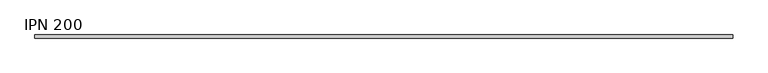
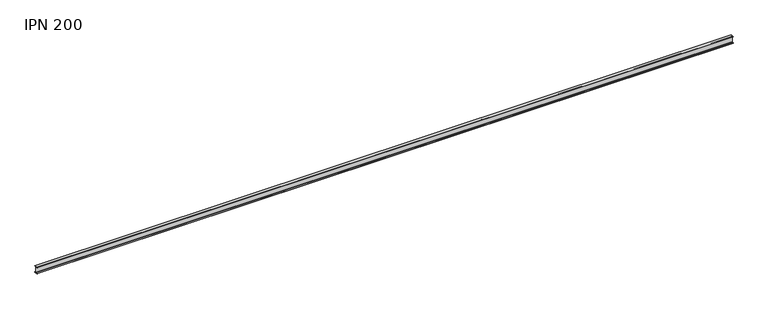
"""IFC4 building model written with IfcOpenShell, lengths in millimetres: beam geometry, IPN - Secciones en I con alas cónicas : IPN 200."""

from ifc_helpers import new_model, si_unit, point, frame, frame_2d, origin, place, context, project, spatial, polyline, circle_curve, trimmed, segment, composite_curve, outline, extrude, source, transform, mapped, element, save


def ipn_200_5e1aae8f(model_context):
    return source(origin(), model_context, "Body", "SweptSolid", [
        extrude(outline(composite_curve([segment(polyline([(45.0, 100.0), (45.0, 95.763886)]), True, "CONTINUOUS"), segment(trimmed(circle_curve(frame_2d((40.5, 95.763886)), 4.5), [point((45.0, 95.763886))], [point((41.1239153, 91.3073481))], False, "CARTESIAN"), True, "CONTINUOUS"), segment(polyline([(41.1239153, 91.3073481), (10.2101412, 86.9794198)]), True, "CONTINUOUS"), segment(trimmed(circle_curve(frame_2d((11.25, 79.5518567)), 7.5), [point((10.2101412, 86.9794198))], [point((3.75, 79.5518567))], True, "CARTESIAN"), True, "CONTINUOUS"), segment(polyline([(3.75, 79.5518567), (3.75, -79.5518567)]), True, "CONTINUOUS"), segment(trimmed(circle_curve(frame_2d((11.25, -79.5518567)), 7.5), [point((3.75, -79.5518567))], [point((10.2101412, -86.9794198))], True, "CARTESIAN"), True, "CONTINUOUS"), segment(polyline([(10.2101412, -86.9794198), (41.1239153, -91.3073481)]), True, "CONTINUOUS"), segment(trimmed(circle_curve(frame_2d((40.5, -95.763886)), 4.5), [point((41.1239153, -91.3073481))], [point((45.0, -95.763886))], False, "CARTESIAN"), True, "CONTINUOUS"), segment(polyline([(45.0, -95.763886), (45.0, -100.0), (-45.0, -100.0), (-45.0, -95.763886)]), True, "CONTINUOUS"), segment(trimmed(circle_curve(frame_2d((-40.5, -95.763886)), 4.5), [point((-45.0, -95.763886))], [point((-41.1239153, -91.3073481))], False, "CARTESIAN"), True, "CONTINUOUS"), segment(polyline([(-41.1239153, -91.3073481), (-10.2101412, -86.9794198)]), True, "CONTINUOUS"), segment(trimmed(circle_curve(frame_2d((-11.25, -79.5518567)), 7.5), [point((-10.2101412, -86.9794198))], [point((-3.75, -79.5518567))], True, "CARTESIAN"), True, "CONTINUOUS"), segment(polyline([(-3.75, -79.5518567), (-3.75, 79.5518567)]), True, "CONTINUOUS"), segment(trimmed(circle_curve(frame_2d((-11.25, 79.5518567)), 7.5), [point((-3.75, 79.5518567))], [point((-10.2101412, 86.9794198))], True, "CARTESIAN"), True, "CONTINUOUS"), segment(polyline([(-10.2101412, 86.9794198), (-41.1239153, 91.3073481)]), True, "CONTINUOUS"), segment(trimmed(circle_curve(frame_2d((-40.5, 95.763886)), 4.5), [point((-41.1239153, 91.3073481))], [point((-45.0, 95.763886))], False, "CARTESIAN"), True, "CONTINUOUS"), segment(polyline([(-45.0, 95.763886), (-45.0, 100.0), (45.0, 100.0)]), True, "CONTINUOUS")], self_intersect=False)), frame((-10015.5, 0.0, 0.0), z_axis=(1.0, 0.0, 0.0), x_axis=(0.0, 1.0, 0.0)), (0.0, 0.0, 1.0), 20040.0),
    ])


if __name__ == "__main__":
    model = new_model("IFC4")
    model_context = context("Model", 3, world=origin())
    ifc_project = project(units=[si_unit("LENGTHUNIT", "METRE", prefix="MILLI")], contexts=[model_context])
    site = spatial("IfcSite", under=ifc_project)
    building = spatial("IfcBuilding", under=site)
    placement = place(None, origin())
    ipn_200_shape = ipn_200_5e1aae8f(model_context)
    element("IfcBeam", 1, ObjectType="IPN - Secciones en I con alas cónicas : IPN 200", at=placement, inside=building, context=model_context, shape_type="MappedRepresentation", body=[
        mapped(ipn_200_shape, transform((0.0, 0.0, 0.0), x_axis=(1.0, 0.0, 0.0), y_axis=(0.0, 1.0, 0.0), z_axis=(0.0, 0.0, 1.0))),
    ])
    save(model, "model.ifc")
